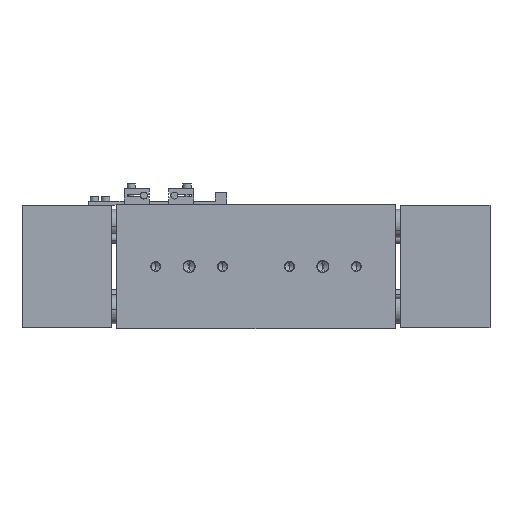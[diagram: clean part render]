
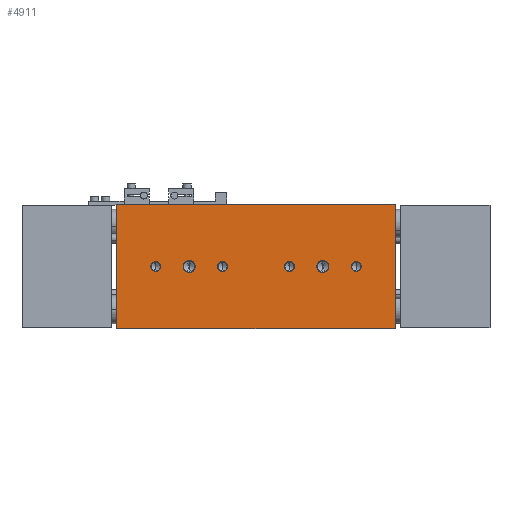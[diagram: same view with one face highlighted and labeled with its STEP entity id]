
A CAD part, front view. The second image highlights one B-rep face of the part: STEP entity #4911.
In plain terms, the highlighted planar face has unit normal (0, -1, 0).
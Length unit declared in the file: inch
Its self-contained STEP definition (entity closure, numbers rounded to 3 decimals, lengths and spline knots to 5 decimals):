
#67 = ORIENTED_EDGE ( 'NONE', *, *, #5572, .T. ) ;
#175 = EDGE_LOOP ( 'NONE', ( #427, #4751 ) ) ;
#257 = CARTESIAN_POINT ( 'NONE',  ( -2.25, -1.4, 0. ) ) ;
#319 = FACE_BOUND ( 'NONE', #7102, .T. ) ;
#368 = ORIENTED_EDGE ( 'NONE', *, *, #1876, .T. ) ;
#418 = CIRCLE ( 'NONE', #8292, 0.1105 ) ;
#427 = ORIENTED_EDGE ( 'NONE', *, *, #1802, .T. ) ;
#434 = VERTEX_POINT ( 'NONE', #2177 ) ;
#469 = CARTESIAN_POINT ( 'NONE',  ( -2.25, -1.4, -0.1105 ) ) ;
#498 = AXIS2_PLACEMENT_3D ( 'NONE', #2430, #7034, #3073 ) ;
#512 = FACE_BOUND ( 'NONE', #8313, .T. ) ;
#517 = DIRECTION ( 'NONE',  ( 0., 0., 1. ) ) ;
#549 = DIRECTION ( 'NONE',  ( 0., 1., 0. ) ) ;
#558 = VERTEX_POINT ( 'NONE', #3521 ) ;
#693 = LINE ( 'NONE', #6546, #2163 ) ;
#759 = CIRCLE ( 'NONE', #2869, 0.135 ) ;
#900 = DIRECTION ( 'NONE',  ( 0., 0., 1. ) ) ;
#1011 = LINE ( 'NONE', #4304, #2489 ) ;
#1113 = EDGE_CURVE ( 'NONE', #1250, #558, #8107, .T. ) ;
#1141 = VERTEX_POINT ( 'NONE', #6544 ) ;
#1250 = VERTEX_POINT ( 'NONE', #4647 ) ;
#1279 = DIRECTION ( 'NONE',  ( 0., 0., -1. ) ) ;
#1559 = DIRECTION ( 'NONE',  ( 0., 1., 0. ) ) ;
#1565 = VERTEX_POINT ( 'NONE', #5392 ) ;
#1576 = EDGE_CURVE ( 'NONE', #3945, #2426, #2850, .T. ) ;
#1649 = EDGE_CURVE ( 'NONE', #434, #7376, #759, .T. ) ;
#1656 = VERTEX_POINT ( 'NONE', #4818 ) ;
#1659 = ORIENTED_EDGE ( 'NONE', *, *, #5658, .F. ) ;
#1714 = ORIENTED_EDGE ( 'NONE', *, *, #3983, .T. ) ;
#1726 = EDGE_CURVE ( 'NONE', #8387, #3212, #5524, .T. ) ;
#1802 = EDGE_CURVE ( 'NONE', #6890, #6245, #5090, .T. ) ;
#1853 = DIRECTION ( 'NONE',  ( 0., 1., 0. ) ) ;
#1876 = EDGE_CURVE ( 'NONE', #4231, #1656, #6448, .T. ) ;
#1962 = CARTESIAN_POINT ( 'NONE',  ( 2.25, -1.4, 0. ) ) ;
#1991 = FACE_BOUND ( 'NONE', #6578, .T. ) ;
#2132 = PLANE ( 'NONE',  #7903 ) ;
#2163 = VECTOR ( 'NONE', #2597, 39.37008 ) ;
#2177 = CARTESIAN_POINT ( 'NONE',  ( -1.5, -1.4, -0.135 ) ) ;
#2208 = ORIENTED_EDGE ( 'NONE', *, *, #8043, .T. ) ;
#2216 = DIRECTION ( 'NONE',  ( 0., 1., 0. ) ) ;
#2292 = CIRCLE ( 'NONE', #498, 0.135 ) ;
#2426 = VERTEX_POINT ( 'NONE', #5038 ) ;
#2430 = CARTESIAN_POINT ( 'NONE',  ( 1.5, -1.4, 0. ) ) ;
#2458 = CARTESIAN_POINT ( 'NONE',  ( 1.5, -1.4, 0.135 ) ) ;
#2468 = CARTESIAN_POINT ( 'NONE',  ( -2.25, -1.4, 0. ) ) ;
#2489 = VECTOR ( 'NONE', #7655, 39.37008 ) ;
#2534 = ORIENTED_EDGE ( 'NONE', *, *, #1649, .T. ) ;
#2549 = CARTESIAN_POINT ( 'NONE',  ( 1.5, -1.4, 0. ) ) ;
#2565 = LINE ( 'NONE', #5795, #4500 ) ;
#2570 = CARTESIAN_POINT ( 'NONE',  ( -0.75, -1.4, 0. ) ) ;
#2593 = AXIS2_PLACEMENT_3D ( 'NONE', #1962, #6550, #2600 ) ;
#2597 = DIRECTION ( 'NONE',  ( 1., 0., 0. ) ) ;
#2600 = DIRECTION ( 'NONE',  ( 0., 0., 1. ) ) ;
#2645 = AXIS2_PLACEMENT_3D ( 'NONE', #2549, #7156, #3187 ) ;
#2725 = ORIENTED_EDGE ( 'NONE', *, *, #4045, .T. ) ;
#2777 = DIRECTION ( 'NONE',  ( 1., 0., 0. ) ) ;
#2782 = AXIS2_PLACEMENT_3D ( 'NONE', #3565, #8194, #4230 ) ;
#2820 = ORIENTED_EDGE ( 'NONE', *, *, #4032, .T. ) ;
#2850 = CIRCLE ( 'NONE', #2993, 0.1105 ) ;
#2869 = AXIS2_PLACEMENT_3D ( 'NONE', #6148, #2216, #6818 ) ;
#2993 = AXIS2_PLACEMENT_3D ( 'NONE', #257, #4752, #900 ) ;
#3011 = VECTOR ( 'NONE', #2777, 39.37008 ) ;
#3073 = DIRECTION ( 'NONE',  ( 0., 0., 1. ) ) ;
#3104 = DIRECTION ( 'NONE',  ( 0., 0., 1. ) ) ;
#3120 = VERTEX_POINT ( 'NONE', #7293 ) ;
#3187 = DIRECTION ( 'NONE',  ( 0., 0., 1. ) ) ;
#3208 = DIRECTION ( 'NONE',  ( 0., 0., 1. ) ) ;
#3212 = VERTEX_POINT ( 'NONE', #6769 ) ;
#3278 = CIRCLE ( 'NONE', #6540, 0.135 ) ;
#3357 = EDGE_LOOP ( 'NONE', ( #7380, #2820 ) ) ;
#3410 = CARTESIAN_POINT ( 'NONE',  ( -3.125, -1.4, 1.4 ) ) ;
#3418 = DIRECTION ( 'NONE',  ( 0., 1., 0. ) ) ;
#3495 = FACE_OUTER_BOUND ( 'NONE', #3937, .T. ) ;
#3521 = CARTESIAN_POINT ( 'NONE',  ( -0.75, -1.4, 0.1105 ) ) ;
#3565 = CARTESIAN_POINT ( 'NONE',  ( 0.75, -1.4, 0. ) ) ;
#3738 = EDGE_CURVE ( 'NONE', #3120, #1565, #4949, .T. ) ;
#3759 = AXIS2_PLACEMENT_3D ( 'NONE', #2570, #7185, #3208 ) ;
#3931 = CARTESIAN_POINT ( 'NONE',  ( 1.5, -1.4, -0.135 ) ) ;
#3937 = EDGE_LOOP ( 'NONE', ( #4457, #1659, #8279, #1714 ) ) ;
#3945 = VERTEX_POINT ( 'NONE', #469 ) ;
#3983 = EDGE_CURVE ( 'NONE', #3120, #1141, #1011, .T. ) ;
#3993 = EDGE_CURVE ( 'NONE', #1656, #4231, #7340, .T. ) ;
#4020 = EDGE_CURVE ( 'NONE', #6245, #6890, #2292, .T. ) ;
#4032 = EDGE_CURVE ( 'NONE', #3212, #8387, #7560, .T. ) ;
#4045 = EDGE_CURVE ( 'NONE', #558, #1250, #418, .T. ) ;
#4230 = DIRECTION ( 'NONE',  ( 0., 0., 1. ) ) ;
#4231 = VERTEX_POINT ( 'NONE', #5190 ) ;
#4304 = CARTESIAN_POINT ( 'NONE',  ( -3.125, -1.4, 1.4 ) ) ;
#4358 = DIRECTION ( 'NONE',  ( 0., 1., 0. ) ) ;
#4392 = CARTESIAN_POINT ( 'NONE',  ( 0.75, -1.4, 0. ) ) ;
#4457 = ORIENTED_EDGE ( 'NONE', *, *, #5772, .T. ) ;
#4500 = VECTOR ( 'NONE', #1279, 39.37008 ) ;
#4647 = CARTESIAN_POINT ( 'NONE',  ( -0.75, -1.4, -0.1105 ) ) ;
#4751 = ORIENTED_EDGE ( 'NONE', *, *, #4020, .T. ) ;
#4752 = DIRECTION ( 'NONE',  ( 0., 1., 0. ) ) ;
#4818 = CARTESIAN_POINT ( 'NONE',  ( 2.25, -1.4, 0.1105 ) ) ;
#4911 = ADVANCED_FACE ( 'NONE', ( #512, #5476, #7852, #7027, #319, #1991, #3495 ), #2132, .F. ) ;
#4949 = LINE ( 'NONE', #3410, #3011 ) ;
#4983 = ORIENTED_EDGE ( 'NONE', *, *, #1576, .T. ) ;
#5038 = CARTESIAN_POINT ( 'NONE',  ( -2.25, -1.4, 0.1105 ) ) ;
#5051 = DIRECTION ( 'NONE',  ( 0., 0., 1. ) ) ;
#5090 = CIRCLE ( 'NONE', #2645, 0.135 ) ;
#5190 = CARTESIAN_POINT ( 'NONE',  ( 2.25, -1.4, -0.1105 ) ) ;
#5392 = CARTESIAN_POINT ( 'NONE',  ( 3.125, -1.4, 1.4 ) ) ;
#5451 = CARTESIAN_POINT ( 'NONE',  ( -1.5, -1.4, 0. ) ) ;
#5476 = FACE_BOUND ( 'NONE', #175, .T. ) ;
#5524 = CIRCLE ( 'NONE', #2782, 0.1105 ) ;
#5572 = EDGE_CURVE ( 'NONE', #2426, #3945, #6084, .T. ) ;
#5610 = VERTEX_POINT ( 'NONE', #7742 ) ;
#5658 = EDGE_CURVE ( 'NONE', #1565, #5610, #2565, .T. ) ;
#5710 = ORIENTED_EDGE ( 'NONE', *, *, #1113, .T. ) ;
#5764 = CARTESIAN_POINT ( 'NONE',  ( -0.75, -1.4, 0. ) ) ;
#5772 = EDGE_CURVE ( 'NONE', #1141, #5610, #693, .T. ) ;
#5795 = CARTESIAN_POINT ( 'NONE',  ( 3.125, -1.4, 1.4 ) ) ;
#6084 = CIRCLE ( 'NONE', #7566, 0.1105 ) ;
#6093 = CARTESIAN_POINT ( 'NONE',  ( -1.5, -1.4, 0.135 ) ) ;
#6112 = DIRECTION ( 'NONE',  ( 0., 0., 1. ) ) ;
#6148 = CARTESIAN_POINT ( 'NONE',  ( -1.5, -1.4, 0. ) ) ;
#6245 = VERTEX_POINT ( 'NONE', #2458 ) ;
#6424 = DIRECTION ( 'NONE',  ( 0., 0., 1. ) ) ;
#6448 = CIRCLE ( 'NONE', #2593, 0.1105 ) ;
#6540 = AXIS2_PLACEMENT_3D ( 'NONE', #5451, #1559, #6112 ) ;
#6544 = CARTESIAN_POINT ( 'NONE',  ( -3.125, -1.4, -1.4 ) ) ;
#6546 = CARTESIAN_POINT ( 'NONE',  ( -3.125, -1.4, -1.4 ) ) ;
#6550 = DIRECTION ( 'NONE',  ( 0., 1., 0. ) ) ;
#6578 = EDGE_LOOP ( 'NONE', ( #4983, #67 ) ) ;
#6769 = CARTESIAN_POINT ( 'NONE',  ( 0.75, -1.4, 0.1105 ) ) ;
#6818 = DIRECTION ( 'NONE',  ( 0., 0., 1. ) ) ;
#6890 = VERTEX_POINT ( 'NONE', #3931 ) ;
#7027 = FACE_BOUND ( 'NONE', #7199, .T. ) ;
#7034 = DIRECTION ( 'NONE',  ( 0., 1., 0. ) ) ;
#7039 = CARTESIAN_POINT ( 'NONE',  ( 0.75, -1.4, -0.1105 ) ) ;
#7051 = ORIENTED_EDGE ( 'NONE', *, *, #3993, .T. ) ;
#7078 = DIRECTION ( 'NONE',  ( 0., 1., 0. ) ) ;
#7102 = EDGE_LOOP ( 'NONE', ( #2534, #2208 ) ) ;
#7156 = DIRECTION ( 'NONE',  ( 0., 1., 0. ) ) ;
#7185 = DIRECTION ( 'NONE',  ( 0., 1., 0. ) ) ;
#7199 = EDGE_LOOP ( 'NONE', ( #5710, #2725 ) ) ;
#7293 = CARTESIAN_POINT ( 'NONE',  ( -3.125, -1.4, 1.4 ) ) ;
#7340 = CIRCLE ( 'NONE', #8315, 0.1105 ) ;
#7376 = VERTEX_POINT ( 'NONE', #6093 ) ;
#7377 = CARTESIAN_POINT ( 'NONE',  ( -3.125, -1.4, 1.4 ) ) ;
#7380 = ORIENTED_EDGE ( 'NONE', *, *, #1726, .T. ) ;
#7560 = CIRCLE ( 'NONE', #8301, 0.1105 ) ;
#7566 = AXIS2_PLACEMENT_3D ( 'NONE', #2468, #7078, #3104 ) ;
#7655 = DIRECTION ( 'NONE',  ( 0., 0., -1. ) ) ;
#7742 = CARTESIAN_POINT ( 'NONE',  ( 3.125, -1.4, -1.4 ) ) ;
#7852 = FACE_BOUND ( 'NONE', #3357, .T. ) ;
#7903 = AXIS2_PLACEMENT_3D ( 'NONE', #7377, #3418, #8047 ) ;
#8043 = EDGE_CURVE ( 'NONE', #7376, #434, #3278, .T. ) ;
#8047 = DIRECTION ( 'NONE',  ( 0., 0., 1. ) ) ;
#8107 = CIRCLE ( 'NONE', #3759, 0.1105 ) ;
#8194 = DIRECTION ( 'NONE',  ( 0., 1., 0. ) ) ;
#8279 = ORIENTED_EDGE ( 'NONE', *, *, #3738, .F. ) ;
#8292 = AXIS2_PLACEMENT_3D ( 'NONE', #5764, #1853, #6424 ) ;
#8301 = AXIS2_PLACEMENT_3D ( 'NONE', #4392, #549, #5051 ) ;
#8313 = EDGE_LOOP ( 'NONE', ( #368, #7051 ) ) ;
#8315 = AXIS2_PLACEMENT_3D ( 'NONE', #8324, #4358, #517 ) ;
#8324 = CARTESIAN_POINT ( 'NONE',  ( 2.25, -1.4, 0. ) ) ;
#8387 = VERTEX_POINT ( 'NONE', #7039 ) ;
